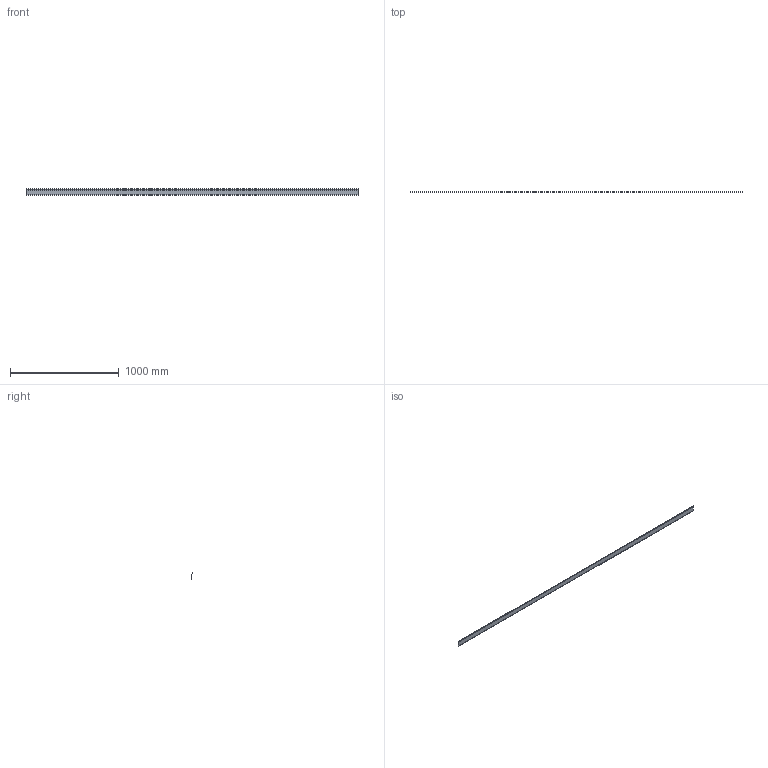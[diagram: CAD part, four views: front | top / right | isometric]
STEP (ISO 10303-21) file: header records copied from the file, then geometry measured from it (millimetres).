
FILE_DESCRIPTION(/* description */ (''),/* implementation_level */ '2;1');
FILE_NAME(/* name */ 'C:\Users\Utilisateur\Mac Metal\Site de communication - Documents\Ingénierie\Développement de produits\Harrywood+\Dessins\Moulures\M10SHWP.stp',/* time_stamp */ '2022-08-05T13:57:35-04:00',/* author */ ('Utilisateur'),/* organization */ (''),/* preprocessor_version */ 'ST-DEVELOPER v18.1',/* originating_system */ 'Autodesk Inventor 2021',/* authorisation */ '');
FILE_SCHEMA (('AUTOMOTIVE_DESIGN { 1 0 10303 214 3 1 1 }'));
Length unit declared in the file: inch
Products named in the file (1): M10SHWP
Bounding box: 3048 x 6.35 x 59.41 mm (x, y, z)
Volume: 101175.6 mm3; surface area: 401315.3 mm2
Topology: 1 solids, 1 shells, 18 faces, 48 edges, 32 vertices
Faces by surface type: plane 12, cylinder 6
Entity records: 607 total; most frequent: CARTESIAN_POINT 99, DIRECTION 98, ORIENTED_EDGE 96, EDGE_CURVE 48, LINE 36, VECTOR 36, VERTEX_POINT 32, AXIS2_PLACEMENT_3D 31
